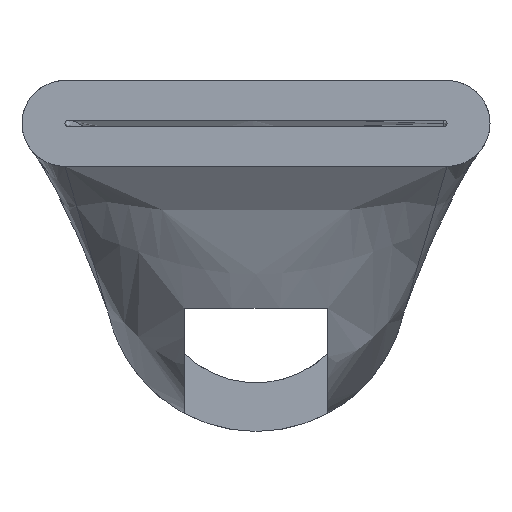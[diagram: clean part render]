
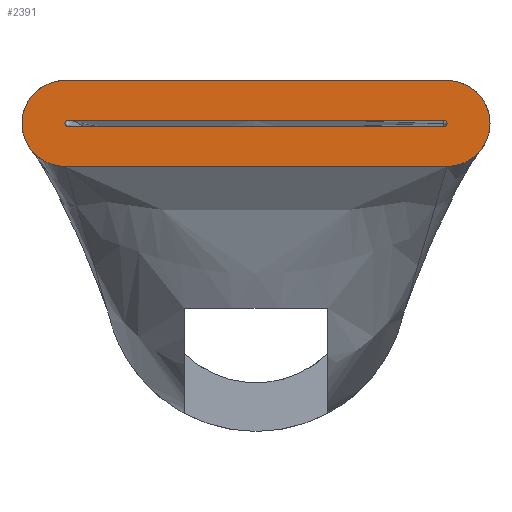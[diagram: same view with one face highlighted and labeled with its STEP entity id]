
A CAD part, left-side view. The second image highlights one B-rep face of the part: STEP entity #2391.
In plain terms, the highlighted planar face has unit normal (-1, 0, 0).
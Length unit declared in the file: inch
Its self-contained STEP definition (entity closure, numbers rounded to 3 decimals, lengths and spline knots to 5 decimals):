
#8 = VERTEX_POINT ( 'NONE', #2679 ) ;
#42 = CIRCLE ( 'NONE', #2641, 0.0415 ) ;
#57 = EDGE_LOOP ( 'NONE', ( #2648, #2680, #2651, #561, #1209 ) ) ;
#69 = DIRECTION ( 'NONE',  ( 0., -1., 0. ) ) ;
#71 = EDGE_CURVE ( 'NONE', #1135, #592, #2328, .T. ) ;
#160 = CARTESIAN_POINT ( 'NONE',  ( -0.898, 0., 0. ) ) ;
#219 = CARTESIAN_POINT ( 'NONE',  ( -0.898, 0.1845, 0.193 ) ) ;
#282 = DIRECTION ( 'NONE',  ( 0., 0., 1. ) ) ;
#315 = CARTESIAN_POINT ( 'NONE',  ( -0.898, 0.1815, 0.1545 ) ) ;
#316 = DIRECTION ( 'NONE',  ( 0., 0., -1. ) ) ;
#324 = CARTESIAN_POINT ( 'NONE',  ( -0.898, -0.1845, 0.1515 ) ) ;
#328 = CARTESIAN_POINT ( 'NONE',  ( -0.898, 0.1845, 0.11 ) ) ;
#351 = DIRECTION ( 'NONE',  ( 1., 0., 0. ) ) ;
#387 = CIRCLE ( 'NONE', #2567, 0.0415 ) ;
#489 = CARTESIAN_POINT ( 'NONE',  ( -0.898, 0.1845, 0.1515 ) ) ;
#498 = VECTOR ( 'NONE', #2345, 39.37008 ) ;
#543 = CARTESIAN_POINT ( 'NONE',  ( -0.898, -0.1845, 0.11 ) ) ;
#561 = ORIENTED_EDGE ( 'NONE', *, *, #2673, .T. ) ;
#592 = VERTEX_POINT ( 'NONE', #543 ) ;
#674 = VERTEX_POINT ( 'NONE', #315 ) ;
#714 = LINE ( 'NONE', #1625, #498 ) ;
#743 = VERTEX_POINT ( 'NONE', #885 ) ;
#817 = CARTESIAN_POINT ( 'NONE',  ( -0.898, -0.1845, 0.193 ) ) ;
#825 = DIRECTION ( 'NONE',  ( 1., 0., 0. ) ) ;
#872 = EDGE_CURVE ( 'NONE', #8, #743, #2338, .T. ) ;
#885 = CARTESIAN_POINT ( 'NONE',  ( -0.898, -0.1815, 0.1485 ) ) ;
#897 = PLANE ( 'NONE',  #2298 ) ;
#990 = DIRECTION ( 'NONE',  ( 0., 1., 0. ) ) ;
#1040 = AXIS2_PLACEMENT_3D ( 'NONE', #2552, #1658, #2739 ) ;
#1049 = FACE_OUTER_BOUND ( 'NONE', #2344, .T. ) ;
#1090 = ORIENTED_EDGE ( 'NONE', *, *, #71, .T. ) ;
#1135 = VERTEX_POINT ( 'NONE', #2571 ) ;
#1144 = ORIENTED_EDGE ( 'NONE', *, *, #1459, .T. ) ;
#1167 = LINE ( 'NONE', #2067, #1737 ) ;
#1178 = AXIS2_PLACEMENT_3D ( 'NONE', #1517, #2325, #2061 ) ;
#1209 = ORIENTED_EDGE ( 'NONE', *, *, #872, .T. ) ;
#1213 = VERTEX_POINT ( 'NONE', #2841 ) ;
#1252 = CARTESIAN_POINT ( 'NONE',  ( -0.898, 0.1815, 0.1515 ) ) ;
#1329 = DIRECTION ( 'NONE',  ( 0., 1., 0. ) ) ;
#1351 = LINE ( 'NONE', #2533, #2072 ) ;
#1388 = DIRECTION ( 'NONE',  ( -1., 0., 0. ) ) ;
#1456 = AXIS2_PLACEMENT_3D ( 'NONE', #324, #1388, #1825 ) ;
#1459 = EDGE_CURVE ( 'NONE', #2570, #2197, #1351, .T. ) ;
#1517 = CARTESIAN_POINT ( 'NONE',  ( -0.898, -0.1815, 0.1515 ) ) ;
#1625 = CARTESIAN_POINT ( 'NONE',  ( -0.898, -0.1815, 0.1485 ) ) ;
#1639 = EDGE_CURVE ( 'NONE', #592, #2570, #1860, .T. ) ;
#1658 = DIRECTION ( 'NONE',  ( 1., 0., 0. ) ) ;
#1692 = DIRECTION ( 'NONE',  ( 0., -1., 0. ) ) ;
#1737 = VECTOR ( 'NONE', #69, 39.37008 ) ;
#1739 = CARTESIAN_POINT ( 'NONE',  ( -0.898, 0.1845, 0.1515 ) ) ;
#1825 = DIRECTION ( 'NONE',  ( 0., 0., -1. ) ) ;
#1860 = CIRCLE ( 'NONE', #1456, 0.0415 ) ;
#1877 = ORIENTED_EDGE ( 'NONE', *, *, #2141, .T. ) ;
#1900 = CARTESIAN_POINT ( 'NONE',  ( -0.898, 0.1845, 0.1515 ) ) ;
#1914 = CIRCLE ( 'NONE', #1040, 0.003 ) ;
#1940 = DIRECTION ( 'NONE',  ( 0., 0., 1. ) ) ;
#1959 = VECTOR ( 'NONE', #1692, 39.37008 ) ;
#2048 = VERTEX_POINT ( 'NONE', #1900 ) ;
#2050 = CARTESIAN_POINT ( 'NONE',  ( -0.898, 0.226, 0.1515 ) ) ;
#2061 = DIRECTION ( 'NONE',  ( 0., 0., 1. ) ) ;
#2067 = CARTESIAN_POINT ( 'NONE',  ( -0.898, 0.1815, 0.1545 ) ) ;
#2072 = VECTOR ( 'NONE', #990, 39.37008 ) ;
#2141 = EDGE_CURVE ( 'NONE', #2197, #2645, #387, .T. ) ;
#2148 = AXIS2_PLACEMENT_3D ( 'NONE', #1252, #351, #316 ) ;
#2197 = VERTEX_POINT ( 'NONE', #219 ) ;
#2253 = ORIENTED_EDGE ( 'NONE', *, *, #2660, .T. ) ;
#2261 = ORIENTED_EDGE ( 'NONE', *, *, #1639, .T. ) ;
#2298 = AXIS2_PLACEMENT_3D ( 'NONE', #160, #825, #1329 ) ;
#2325 = DIRECTION ( 'NONE',  ( 1., 0., 0. ) ) ;
#2328 = LINE ( 'NONE', #328, #1959 ) ;
#2338 = CIRCLE ( 'NONE', #1178, 0.003 ) ;
#2344 = EDGE_LOOP ( 'NONE', ( #1144, #1877, #2253, #1090, #2261 ) ) ;
#2345 = DIRECTION ( 'NONE',  ( 0., 1., 0. ) ) ;
#2391 = ADVANCED_FACE ( 'NONE', ( #2772, #1049 ), #897, .F. ) ;
#2504 = DIRECTION ( 'NONE',  ( -1., 0., 0. ) ) ;
#2533 = CARTESIAN_POINT ( 'NONE',  ( -0.898, -0.1845, 0.193 ) ) ;
#2549 = CIRCLE ( 'NONE', #2148, 0.003 ) ;
#2551 = EDGE_CURVE ( 'NONE', #2048, #674, #1914, .T. ) ;
#2552 = CARTESIAN_POINT ( 'NONE',  ( -0.898, 0.1815, 0.1515 ) ) ;
#2567 = AXIS2_PLACEMENT_3D ( 'NONE', #1739, #2817, #1940 ) ;
#2570 = VERTEX_POINT ( 'NONE', #817 ) ;
#2571 = CARTESIAN_POINT ( 'NONE',  ( -0.898, 0.1845, 0.11 ) ) ;
#2641 = AXIS2_PLACEMENT_3D ( 'NONE', #489, #2504, #282 ) ;
#2645 = VERTEX_POINT ( 'NONE', #2050 ) ;
#2648 = ORIENTED_EDGE ( 'NONE', *, *, #2674, .T. ) ;
#2651 = ORIENTED_EDGE ( 'NONE', *, *, #2551, .T. ) ;
#2660 = EDGE_CURVE ( 'NONE', #2645, #1135, #42, .T. ) ;
#2673 = EDGE_CURVE ( 'NONE', #674, #8, #1167, .T. ) ;
#2674 = EDGE_CURVE ( 'NONE', #743, #1213, #714, .T. ) ;
#2679 = CARTESIAN_POINT ( 'NONE',  ( -0.898, -0.1815, 0.1545 ) ) ;
#2680 = ORIENTED_EDGE ( 'NONE', *, *, #2720, .T. ) ;
#2720 = EDGE_CURVE ( 'NONE', #1213, #2048, #2549, .T. ) ;
#2739 = DIRECTION ( 'NONE',  ( 0., 0., -1. ) ) ;
#2772 = FACE_BOUND ( 'NONE', #57, .T. ) ;
#2817 = DIRECTION ( 'NONE',  ( -1., 0., 0. ) ) ;
#2841 = CARTESIAN_POINT ( 'NONE',  ( -0.898, 0.1815, 0.1485 ) ) ;
